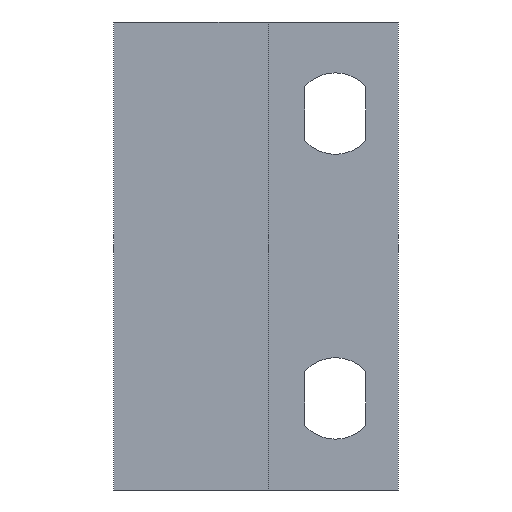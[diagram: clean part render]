
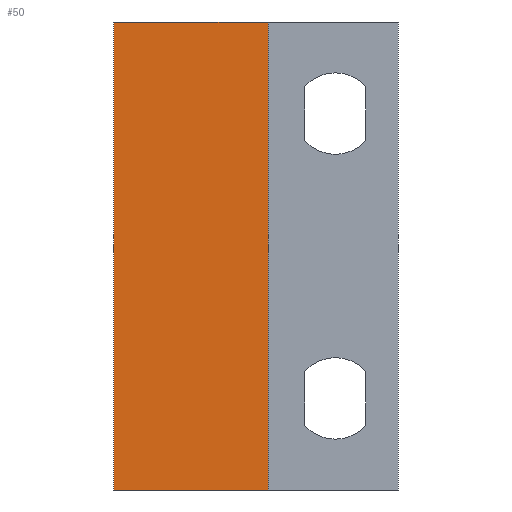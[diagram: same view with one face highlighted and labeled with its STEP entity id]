
A CAD part, left-side view. The second image highlights one B-rep face of the part: STEP entity #50.
In plain terms, the highlighted planar face has unit normal (-1, 0, 0).
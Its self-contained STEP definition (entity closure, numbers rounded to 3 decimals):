
#50=ADVANCED_FACE('',(#82),#1150,.T.);
#82=FACE_OUTER_BOUND('',#118,.T.);
#118=EDGE_LOOP('',(#195,#196,#197,#198));
#195=ORIENTED_EDGE('',*,*,#808,.F.);
#196=ORIENTED_EDGE('',*,*,#794,.F.);
#197=ORIENTED_EDGE('',*,*,#795,.F.);
#198=ORIENTED_EDGE('',*,*,#787,.F.);
#367=PCURVE('',#1143,#535);
#374=PCURVE('',#1144,#542);
#375=PCURVE('',#1145,#543);
#398=PCURVE('',#1148,#566);
#411=PCURVE('',#1150,#579);
#412=PCURVE('',#1150,#580);
#413=PCURVE('',#1150,#581);
#414=PCURVE('',#1150,#582);
#535=DEFINITIONAL_REPRESENTATION('',(#876),#2126);
#542=DEFINITIONAL_REPRESENTATION('',(#890),#2126);
#543=DEFINITIONAL_REPRESENTATION('',(#892),#2126);
#566=DEFINITIONAL_REPRESENTATION('',(#920),#2126);
#579=DEFINITIONAL_REPRESENTATION('',(#933),#2126);
#580=DEFINITIONAL_REPRESENTATION('',(#934),#2126);
#581=DEFINITIONAL_REPRESENTATION('',(#935),#2126);
#582=DEFINITIONAL_REPRESENTATION('',(#936),#2126);
#703=SURFACE_CURVE('',#875,(#367,#414),.PCURVE_S1.);
#710=SURFACE_CURVE('',#889,(#374,#412),.PCURVE_S1.);
#711=SURFACE_CURVE('',#891,(#375,#413),.PCURVE_S1.);
#724=SURFACE_CURVE('',#919,(#398,#411),.PCURVE_S1.);
#787=EDGE_CURVE('',#1073,#1072,#703,.T.);
#794=EDGE_CURVE('',#1082,#1077,#710,.T.);
#795=EDGE_CURVE('',#1072,#1082,#711,.T.);
#808=EDGE_CURVE('',#1077,#1073,#724,.T.);
#875=B_SPLINE_CURVE_WITH_KNOTS('',1,(#1333,#1334),.UNSPECIFIED.,.F.,.F.,
(2,2),(46.4,54.),.UNSPECIFIED.);
#876=B_SPLINE_CURVE_WITH_KNOTS('',1,(#1335,#1336),.UNSPECIFIED.,.F.,.F.,
(2,2),(46.4,54.),.UNSPECIFIED.);
#889=B_SPLINE_CURVE_WITH_KNOTS('',1,(#1361,#1362),.UNSPECIFIED.,.F.,.F.,
(2,2),(-14.,-6.4),.UNSPECIFIED.);
#890=B_SPLINE_CURVE_WITH_KNOTS('',1,(#1363,#1364),.UNSPECIFIED.,.F.,.F.,
(2,2),(-14.,-6.4),.UNSPECIFIED.);
#891=B_SPLINE_CURVE_WITH_KNOTS('',1,(#1365,#1366),.UNSPECIFIED.,.F.,.F.,
(2,2),(0.,23.),.UNSPECIFIED.);
#892=B_SPLINE_CURVE_WITH_KNOTS('',1,(#1367,#1368),.UNSPECIFIED.,.F.,.F.,
(2,2),(0.,23.),.UNSPECIFIED.);
#919=B_SPLINE_CURVE_WITH_KNOTS('',1,(#1475,#1476),.UNSPECIFIED.,.F.,.F.,
(2,2),(-23.,0.),.UNSPECIFIED.);
#920=B_SPLINE_CURVE_WITH_KNOTS('',1,(#1477,#1478),.UNSPECIFIED.,.F.,.F.,
(2,2),(-23.,0.),.UNSPECIFIED.);
#933=B_SPLINE_CURVE_WITH_KNOTS('',1,(#1583,#1584),.UNSPECIFIED.,.F.,.F.,
(2,2),(-23.,0.),.UNSPECIFIED.);
#934=B_SPLINE_CURVE_WITH_KNOTS('',1,(#1585,#1586),.UNSPECIFIED.,.F.,.F.,
(2,2),(-14.,-6.4),.UNSPECIFIED.);
#935=B_SPLINE_CURVE_WITH_KNOTS('',1,(#1587,#1588),.UNSPECIFIED.,.F.,.F.,
(2,2),(0.,23.),.UNSPECIFIED.);
#936=B_SPLINE_CURVE_WITH_KNOTS('',1,(#1589,#1590),.UNSPECIFIED.,.F.,.F.,
(2,2),(46.4,54.),.UNSPECIFIED.);
#1072=VERTEX_POINT('',#1290);
#1073=VERTEX_POINT('',#1291);
#1077=VERTEX_POINT('',#1295);
#1082=VERTEX_POINT('',#1300);
#1143=PLANE('',#1179);
#1144=PLANE('',#1180);
#1145=PLANE('',#1181);
#1148=PLANE('',#1184);
#1150=PLANE('',#1186);
#1179=AXIS2_PLACEMENT_3D('',#1217,#1198,$);
#1180=AXIS2_PLACEMENT_3D('',#1218,#1199,$);
#1181=AXIS2_PLACEMENT_3D('',#1219,#1200,$);
#1184=AXIS2_PLACEMENT_3D('',#1222,#1203,$);
#1186=AXIS2_PLACEMENT_3D('',#1224,#1205,$);
#1198=DIRECTION('',(0.,0.,-1.));
#1199=DIRECTION('',(0.,0.,1.));
#1200=DIRECTION('',(0.,1.,0.));
#1203=DIRECTION('',(0.,-1.,0.));
#1205=DIRECTION('',(-1.,0.,0.));
#1217=CARTESIAN_POINT('',(-497.56,16.76,-1.5));
#1218=CARTESIAN_POINT('',(-497.56,16.76,21.5));
#1219=CARTESIAN_POINT('',(-497.5,30.9,-1.5));
#1222=CARTESIAN_POINT('',(-497.5,23.3,-1.5));
#1224=CARTESIAN_POINT('',(-497.5,16.9,-1.5));
#1290=CARTESIAN_POINT('',(-497.5,30.9,-1.5));
#1291=CARTESIAN_POINT('',(-497.5,23.3,-1.5));
#1295=CARTESIAN_POINT('',(-497.5,23.3,21.5));
#1300=CARTESIAN_POINT('',(-497.5,30.9,21.5));
#1333=CARTESIAN_POINT('',(-497.5,23.3,-1.5));
#1334=CARTESIAN_POINT('',(-497.5,30.9,-1.5));
#1335=CARTESIAN_POINT('',(-7.6,-6.));
#1336=CARTESIAN_POINT('',(0.,-6.));
#1361=CARTESIAN_POINT('',(-497.5,30.9,21.5));
#1362=CARTESIAN_POINT('',(-497.5,23.3,21.5));
#1363=CARTESIAN_POINT('',(0.,7.6));
#1364=CARTESIAN_POINT('',(0.,0.));
#1365=CARTESIAN_POINT('',(-497.5,30.9,-1.5));
#1366=CARTESIAN_POINT('',(-497.5,30.9,21.5));
#1367=CARTESIAN_POINT('',(0.,14.));
#1368=CARTESIAN_POINT('',(23.,14.));
#1475=CARTESIAN_POINT('',(-497.5,23.3,21.5));
#1476=CARTESIAN_POINT('',(-497.5,23.3,-1.5));
#1477=CARTESIAN_POINT('',(6.4,23.));
#1478=CARTESIAN_POINT('',(6.4,0.));
#1583=CARTESIAN_POINT('',(23.,6.4));
#1584=CARTESIAN_POINT('',(0.,6.4));
#1585=CARTESIAN_POINT('',(23.,14.));
#1586=CARTESIAN_POINT('',(23.,6.4));
#1587=CARTESIAN_POINT('',(0.,14.));
#1588=CARTESIAN_POINT('',(23.,14.));
#1589=CARTESIAN_POINT('',(0.,6.4));
#1590=CARTESIAN_POINT('',(0.,14.));
#2126=(
GEOMETRIC_REPRESENTATION_CONTEXT(2)
PARAMETRIC_REPRESENTATION_CONTEXT()
REPRESENTATION_CONTEXT('pspace','')
);
